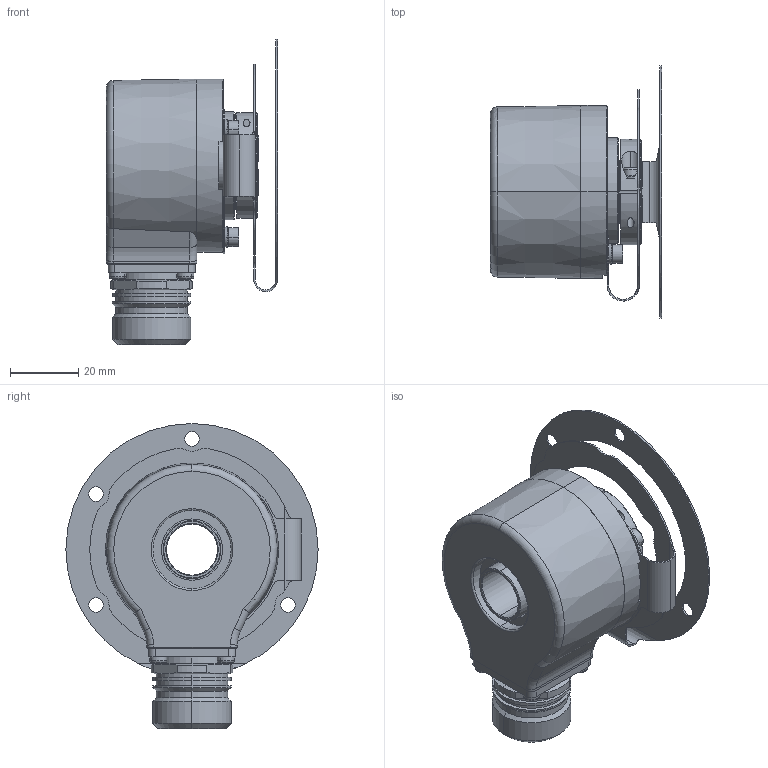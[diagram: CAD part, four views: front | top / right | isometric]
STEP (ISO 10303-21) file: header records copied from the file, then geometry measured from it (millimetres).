
FILE_DESCRIPTION (( 'STEP AP214' ), '1' );
FILE_NAME ('5020.88X4.XXXX.STEP', '2007-08-30T08:45:33', ( 'DanneckerS' ), ( ' ' ), 'SwSTEP 2.0', 'SolidWorks 2007', '' );
FILE_SCHEMA (( 'AUTOMOTIVE_DESIGN' ));
Length unit declared in the file: millimetre
Products named in the file (1): 5020.88X4.XXXX
Bounding box: 50.2 x 74 x 89.5 mm (x, y, z)
Surface area: 28985.8 mm2 (no closed solid volume)
Topology: 0 solids, 42 shells, 471 faces, 1369 edges, 907 vertices
Faces by surface type: cylinder 203, plane 137, cone 59, torus 36, sphere 32, bspline 4
Entity records: 21220 total; most frequent: CARTESIAN_POINT 3418, DIRECTION 2886, ORIENTED_EDGE 2366, EDGE_CURVE 1341, AXIS2_PLACEMENT_3D 1187, VERTEX_POINT 907, CIRCLE 719, EDGE_LOOP 543
